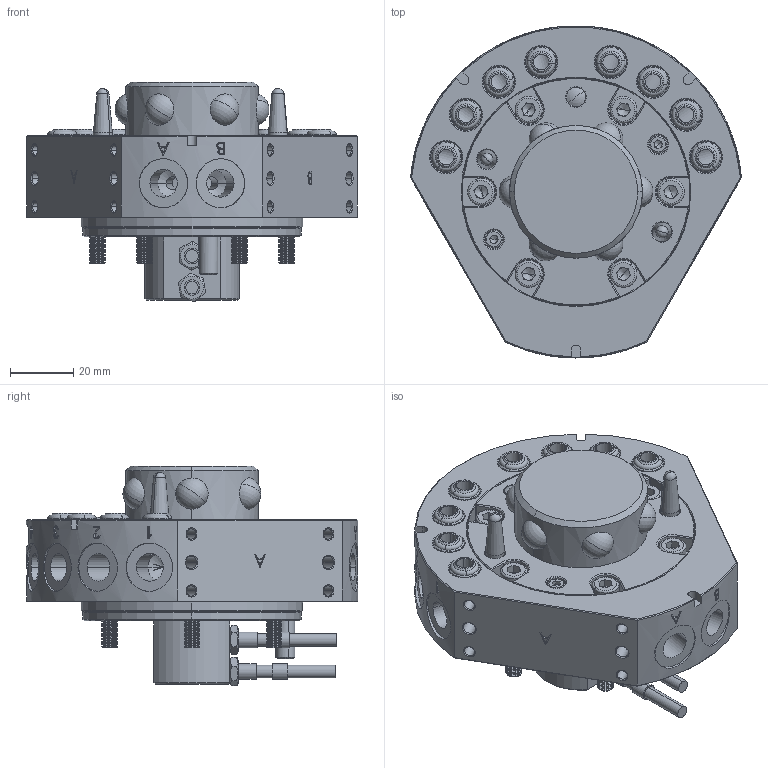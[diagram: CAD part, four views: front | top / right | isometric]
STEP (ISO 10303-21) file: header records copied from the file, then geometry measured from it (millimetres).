
FILE_DESCRIPTION (( 'STEP AP203' ), '1' );
FILE_NAME ('QCA-35R-SP.STEP', '2024-03-19T08:06:15', ( '微软用户' ), ( '微软中国' ), 'SwSTEP 2.0', 'SolidWorks 2018', '' );
FILE_SCHEMA (( 'CONFIG_CONTROL_DESIGN' ));
Products named in the file (1): QCA-35R-SP
Bounding box: 104.62 x 104.96 x 69.56 mm (x, y, z)
Volume: 249305.4 mm3; surface area: 49072.4 mm2
Topology: 1 solids, 38 shells, 2985 faces, 6425 edges, 3550 vertices
Faces by surface type: cone 1549, cylinder 920, plane 406, torus 54, bspline 44, sphere 12
Entity records: 85448 total; most frequent: CARTESIAN_POINT 19962, DIRECTION 15013, ORIENTED_EDGE 12706, EDGE_CURVE 6353, AXIS2_PLACEMENT_3D 5970, VERTEX_POINT 3550, EDGE_LOOP 3179, LINE 3073
